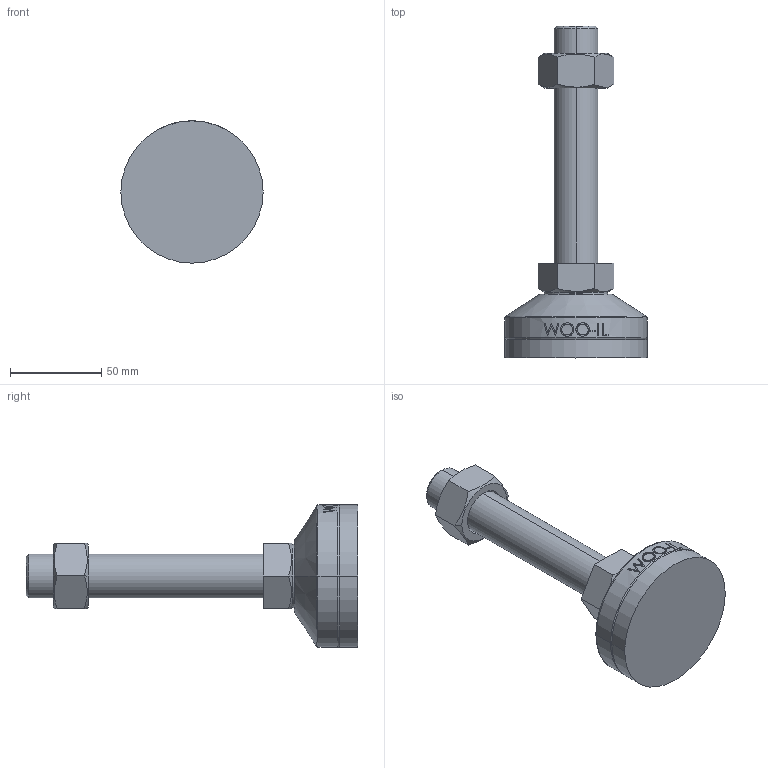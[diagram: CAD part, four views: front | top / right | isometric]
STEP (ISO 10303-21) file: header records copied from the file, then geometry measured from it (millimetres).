
FILE_DESCRIPTION (( 'STEP AP214' ), '1' );
FILE_NAME ('MFR78-M24-130.step', '2021-01-13T05:40:10', ( '' ), ( '' ), 'SwSTEP 2.0', 'SolidWorks 2019', '' );
FILE_SCHEMA (( 'AUTOMOTIVE_DESIGN' ));
Length unit declared in the file: millimetre
Products named in the file (2): MFR78-M24-130
Bounding box: 78 x 182 x 78 mm (x, y, z)
Volume: 232250 mm3; surface area: 44068 mm2
Topology: 4 solids, 4 shells, 103 faces, 235 edges, 150 vertices
Faces by surface type: plane 49, cylinder 18, bspline 16, cone 14, torus 6
Entity records: 4471 total; most frequent: CARTESIAN_POINT 2198, ORIENTED_EDGE 470, DIRECTION 417, EDGE_CURVE 235, AXIS2_PLACEMENT_3D 159, VERTEX_POINT 150, EDGE_LOOP 115, ADVANCED_FACE 103
